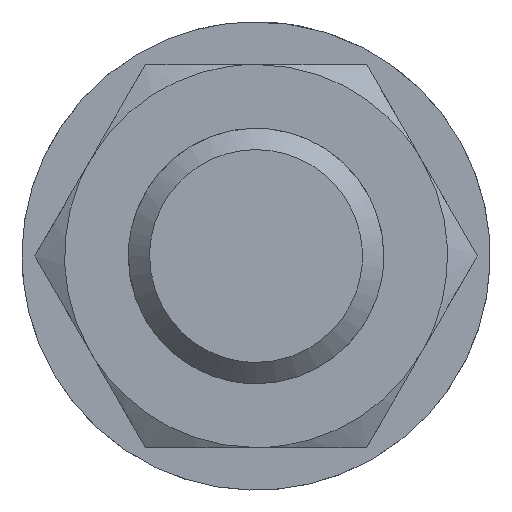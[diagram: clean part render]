
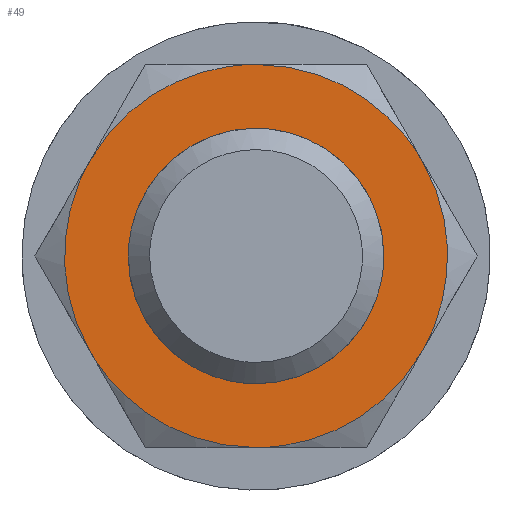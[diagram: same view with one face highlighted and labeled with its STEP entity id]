
A CAD part, left-side view. The second image highlights one B-rep face of the part: STEP entity #49.
In plain terms, the highlighted planar face has unit normal (-1, 0, 0).
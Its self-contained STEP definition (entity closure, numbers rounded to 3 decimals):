
#40=FACE_BOUND('',#138,.T.);
#49=ADVANCED_FACE('',(#92,#40),#658,.T.);
#92=FACE_OUTER_BOUND('',#137,.T.);
#137=EDGE_LOOP('',(#202,#203,#204,#205,#206,#207));
#138=EDGE_LOOP('',(#208,#209));
#202=ORIENTED_EDGE('',*,*,#403,.F.);
#203=ORIENTED_EDGE('',*,*,#405,.F.);
#204=ORIENTED_EDGE('',*,*,#406,.F.);
#205=ORIENTED_EDGE('',*,*,#404,.F.);
#206=ORIENTED_EDGE('',*,*,#402,.F.);
#207=ORIENTED_EDGE('',*,*,#401,.F.);
#208=ORIENTED_EDGE('',*,*,#391,.F.);
#209=ORIENTED_EDGE('',*,*,#389,.F.);
#389=EDGE_CURVE('',#604,#594,#515,.T.);
#391=EDGE_CURVE('',#594,#604,#516,.T.);
#401=EDGE_CURVE('',#598,#599,#524,.T.);
#402=EDGE_CURVE('',#599,#603,#525,.T.);
#403=EDGE_CURVE('',#600,#598,#526,.T.);
#404=EDGE_CURVE('',#603,#602,#527,.T.);
#405=EDGE_CURVE('',#601,#600,#528,.T.);
#406=EDGE_CURVE('',#602,#601,#529,.T.);
#515=(
BOUNDED_CURVE()
B_SPLINE_CURVE(2,(#1161,#1162,#1163,#1164,#1165),.UNSPECIFIED.,.F.,.F.)
B_SPLINE_CURVE_WITH_KNOTS((3,2,3),(37.698,56.548,75.397),
 .UNSPECIFIED.)
CURVE()
GEOMETRIC_REPRESENTATION_ITEM()
RATIONAL_B_SPLINE_CURVE((1.,0.707,1.,0.707,1.))
REPRESENTATION_ITEM('')
);
#516=(
BOUNDED_CURVE()
B_SPLINE_CURVE(2,(#1168,#1169,#1170,#1171,#1172),.UNSPECIFIED.,.F.,.F.)
B_SPLINE_CURVE_WITH_KNOTS((3,2,3),(0.,18.849,37.698),
 .UNSPECIFIED.)
CURVE()
GEOMETRIC_REPRESENTATION_ITEM()
RATIONAL_B_SPLINE_CURVE((1.,0.707,1.,0.707,1.))
REPRESENTATION_ITEM('')
);
#524=(
BOUNDED_CURVE()
B_SPLINE_CURVE(2,(#1210,#1211,#1212),.UNSPECIFIED.,.F.,.F.)
B_SPLINE_CURVE_WITH_KNOTS((3,3),(0.,18.85),.UNSPECIFIED.)
CURVE()
GEOMETRIC_REPRESENTATION_ITEM()
RATIONAL_B_SPLINE_CURVE((1.,0.866,1.))
REPRESENTATION_ITEM('')
);
#525=(
BOUNDED_CURVE()
B_SPLINE_CURVE(2,(#1213,#1214,#1215),.UNSPECIFIED.,.F.,.F.)
B_SPLINE_CURVE_WITH_KNOTS((3,3),(0.,18.85),.UNSPECIFIED.)
CURVE()
GEOMETRIC_REPRESENTATION_ITEM()
RATIONAL_B_SPLINE_CURVE((1.,0.866,1.))
REPRESENTATION_ITEM('')
);
#526=(
BOUNDED_CURVE()
B_SPLINE_CURVE(2,(#1216,#1217,#1218),.UNSPECIFIED.,.F.,.F.)
B_SPLINE_CURVE_WITH_KNOTS((3,3),(0.,18.85),.UNSPECIFIED.)
CURVE()
GEOMETRIC_REPRESENTATION_ITEM()
RATIONAL_B_SPLINE_CURVE((1.,0.866,1.))
REPRESENTATION_ITEM('')
);
#527=(
BOUNDED_CURVE()
B_SPLINE_CURVE(2,(#1219,#1220,#1221),.UNSPECIFIED.,.F.,.F.)
B_SPLINE_CURVE_WITH_KNOTS((3,3),(0.,18.85),.UNSPECIFIED.)
CURVE()
GEOMETRIC_REPRESENTATION_ITEM()
RATIONAL_B_SPLINE_CURVE((1.,0.866,1.))
REPRESENTATION_ITEM('')
);
#528=(
BOUNDED_CURVE()
B_SPLINE_CURVE(2,(#1222,#1223,#1224),.UNSPECIFIED.,.F.,.F.)
B_SPLINE_CURVE_WITH_KNOTS((3,3),(0.,18.85),.UNSPECIFIED.)
CURVE()
GEOMETRIC_REPRESENTATION_ITEM()
RATIONAL_B_SPLINE_CURVE((1.,0.866,1.))
REPRESENTATION_ITEM('')
);
#529=(
BOUNDED_CURVE()
B_SPLINE_CURVE(2,(#1225,#1226,#1227),.UNSPECIFIED.,.F.,.F.)
B_SPLINE_CURVE_WITH_KNOTS((3,3),(0.,18.85),.UNSPECIFIED.)
CURVE()
GEOMETRIC_REPRESENTATION_ITEM()
RATIONAL_B_SPLINE_CURVE((1.,0.866,1.))
REPRESENTATION_ITEM('')
);
#594=VERTEX_POINT('',#1129);
#598=VERTEX_POINT('',#1133);
#599=VERTEX_POINT('',#1134);
#600=VERTEX_POINT('',#1135);
#601=VERTEX_POINT('',#1136);
#602=VERTEX_POINT('',#1137);
#603=VERTEX_POINT('',#1138);
#604=VERTEX_POINT('',#1139);
#658=PLANE('',#772);
#772=AXIS2_PLACEMENT_3D('',#886,#798,$);
#798=DIRECTION('',(-1.,0.,0.));
#886=CARTESIAN_POINT('',(30.667,-25.062,21.72));
#1129=CARTESIAN_POINT('',(30.667,0.,-12.));
#1133=CARTESIAN_POINT('',(30.667,-15.588,9.));
#1134=CARTESIAN_POINT('',(30.667,-15.588,-9.));
#1135=CARTESIAN_POINT('',(30.667,0.,18.));
#1136=CARTESIAN_POINT('',(30.667,15.588,9.));
#1137=CARTESIAN_POINT('',(30.667,15.588,-9.));
#1138=CARTESIAN_POINT('',(30.667,0.,-18.));
#1139=CARTESIAN_POINT('',(30.667,0.,12.));
#1161=CARTESIAN_POINT('',(30.667,0.,12.));
#1162=CARTESIAN_POINT('',(30.667,12.,12.));
#1163=CARTESIAN_POINT('',(30.667,12.,0.));
#1164=CARTESIAN_POINT('',(30.667,12.,-12.));
#1165=CARTESIAN_POINT('',(30.667,0.,-12.));
#1168=CARTESIAN_POINT('',(30.667,0.,-12.));
#1169=CARTESIAN_POINT('',(30.667,-12.,-12.));
#1170=CARTESIAN_POINT('',(30.667,-12.,0.));
#1171=CARTESIAN_POINT('',(30.667,-12.,12.));
#1172=CARTESIAN_POINT('',(30.667,0.,12.));
#1210=CARTESIAN_POINT('',(30.667,-15.588,9.));
#1211=CARTESIAN_POINT('',(30.667,-20.785,0.));
#1212=CARTESIAN_POINT('',(30.667,-15.588,-9.));
#1213=CARTESIAN_POINT('',(30.667,-15.588,-9.));
#1214=CARTESIAN_POINT('',(30.667,-10.392,-18.));
#1215=CARTESIAN_POINT('',(30.667,0.,-18.));
#1216=CARTESIAN_POINT('',(30.667,0.,18.));
#1217=CARTESIAN_POINT('',(30.667,-10.392,18.));
#1218=CARTESIAN_POINT('',(30.667,-15.588,9.));
#1219=CARTESIAN_POINT('',(30.667,0.,-18.));
#1220=CARTESIAN_POINT('',(30.667,10.392,-18.));
#1221=CARTESIAN_POINT('',(30.667,15.588,-9.));
#1222=CARTESIAN_POINT('',(30.667,15.588,9.));
#1223=CARTESIAN_POINT('',(30.667,10.392,18.));
#1224=CARTESIAN_POINT('',(30.667,0.,18.));
#1225=CARTESIAN_POINT('',(30.667,15.588,-9.));
#1226=CARTESIAN_POINT('',(30.667,20.785,0.));
#1227=CARTESIAN_POINT('',(30.667,15.588,9.));
